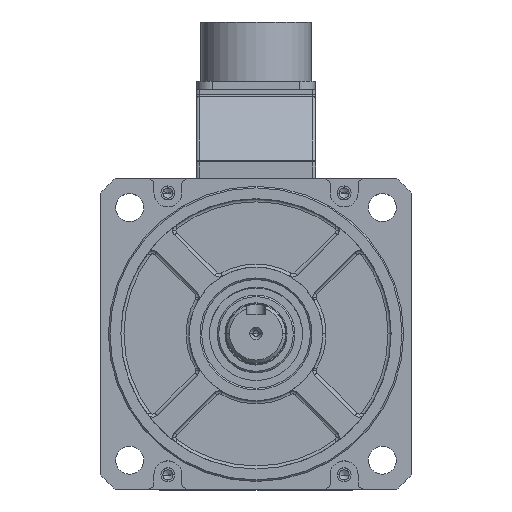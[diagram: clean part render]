
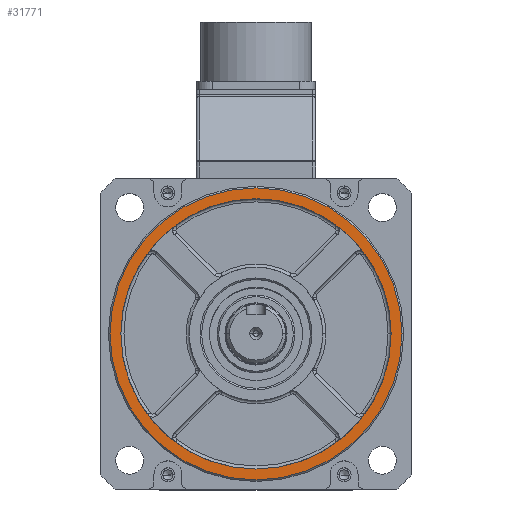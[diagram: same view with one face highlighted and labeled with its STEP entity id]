
A CAD part, top view. The second image highlights one B-rep face of the part: STEP entity #31771.
In plain terms, the highlighted planar face has unit normal (0, 0, 1).
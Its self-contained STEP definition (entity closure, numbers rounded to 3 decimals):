
#581 = DIRECTION ( 'NONE',  ( 1., 0., 0. ) ) ;
#991 = VERTEX_POINT ( 'NONE', #47760 ) ;
#1000 = ORIENTED_EDGE ( 'NONE', *, *, #1866, .F. ) ;
#1866 = EDGE_CURVE ( 'NONE', #22779, #991, #53796, .T. ) ;
#2766 = CARTESIAN_POINT ( 'NONE',  ( 0., 0., 13. ) ) ;
#3471 = VERTEX_POINT ( 'NONE', #25227 ) ;
#6721 = CIRCLE ( 'NONE', #46556, 47. ) ;
#6923 = DIRECTION ( 'NONE',  ( 1., 0., 0. ) ) ;
#7475 = VERTEX_POINT ( 'NONE', #49866 ) ;
#8122 = EDGE_LOOP ( 'NONE', ( #14489, #1000 ) ) ;
#9924 = EDGE_CURVE ( 'NONE', #991, #22779, #34021, .T. ) ;
#10448 = EDGE_CURVE ( 'NONE', #7475, #3471, #50534, .T. ) ;
#11990 = DIRECTION ( 'NONE',  ( 0., 0., 1. ) ) ;
#13198 = DIRECTION ( 'NONE',  ( 0., 0., 1. ) ) ;
#14489 = ORIENTED_EDGE ( 'NONE', *, *, #9924, .F. ) ;
#16822 = DIRECTION ( 'NONE',  ( 1., 0., 0. ) ) ;
#20798 = CARTESIAN_POINT ( 'NONE',  ( -43.5, 0., 13. ) ) ;
#22779 = VERTEX_POINT ( 'NONE', #20798 ) ;
#24557 = CARTESIAN_POINT ( 'NONE',  ( 0., 0., 13. ) ) ;
#25167 = PLANE ( 'NONE',  #51915 ) ;
#25227 = CARTESIAN_POINT ( 'NONE',  ( -47., 0., 13. ) ) ;
#27184 = CARTESIAN_POINT ( 'NONE',  ( 0., 0., 13. ) ) ;
#29258 = AXIS2_PLACEMENT_3D ( 'NONE', #42153, #32682, #581 ) ;
#30922 = DIRECTION ( 'NONE',  ( 1., 0., 0. ) ) ;
#31771 = ADVANCED_FACE ( 'NONE', ( #38820, #34682 ), #25167, .T. ) ;
#32682 = DIRECTION ( 'NONE',  ( 0., 0., 1. ) ) ;
#34021 = CIRCLE ( 'NONE', #29258, 43.5 ) ;
#34682 = FACE_BOUND ( 'NONE', #8122, .T. ) ;
#35060 = ORIENTED_EDGE ( 'NONE', *, *, #10448, .T. ) ;
#35970 = EDGE_CURVE ( 'NONE', #3471, #7475, #6721, .T. ) ;
#38820 = FACE_OUTER_BOUND ( 'NONE', #43426, .T. ) ;
#40408 = DIRECTION ( 'NONE',  ( 0., 0., 1. ) ) ;
#42153 = CARTESIAN_POINT ( 'NONE',  ( 0., 0., 13. ) ) ;
#43426 = EDGE_LOOP ( 'NONE', ( #46925, #35060 ) ) ;
#46556 = AXIS2_PLACEMENT_3D ( 'NONE', #27184, #13198, #53622 ) ;
#46716 = AXIS2_PLACEMENT_3D ( 'NONE', #2766, #11990, #6923 ) ;
#46925 = ORIENTED_EDGE ( 'NONE', *, *, #35970, .T. ) ;
#47760 = CARTESIAN_POINT ( 'NONE',  ( 43.5, 0., 13. ) ) ;
#48100 = AXIS2_PLACEMENT_3D ( 'NONE', #53177, #40408, #30922 ) ;
#49866 = CARTESIAN_POINT ( 'NONE',  ( 47., 0., 13. ) ) ;
#50534 = CIRCLE ( 'NONE', #46716, 47. ) ;
#51915 = AXIS2_PLACEMENT_3D ( 'NONE', #24557, #52481, #16822 ) ;
#52481 = DIRECTION ( 'NONE',  ( 0., 0., 1. ) ) ;
#53177 = CARTESIAN_POINT ( 'NONE',  ( 0., 0., 13. ) ) ;
#53622 = DIRECTION ( 'NONE',  ( 1., 0., 0. ) ) ;
#53796 = CIRCLE ( 'NONE', #48100, 43.5 ) ;
